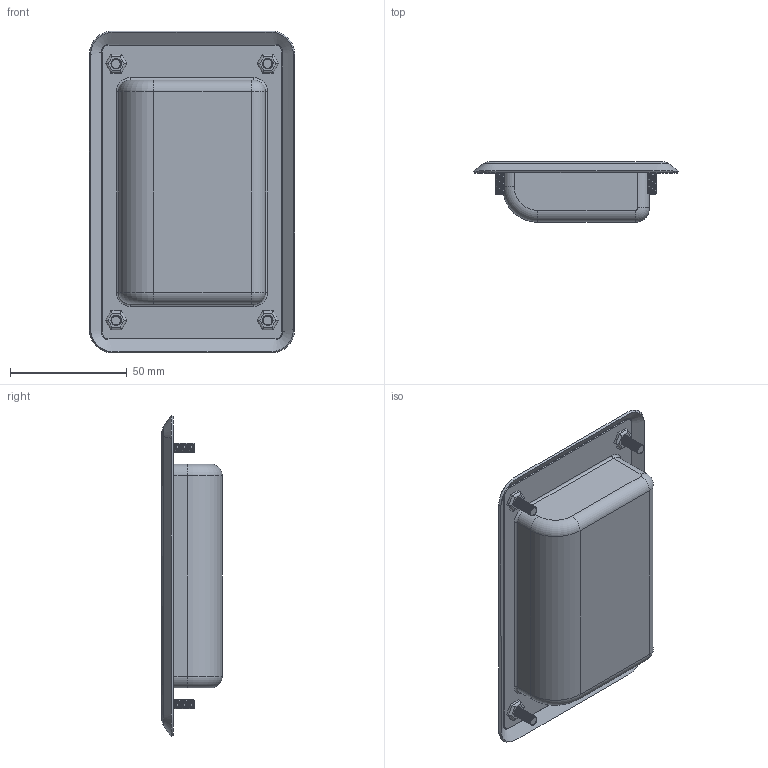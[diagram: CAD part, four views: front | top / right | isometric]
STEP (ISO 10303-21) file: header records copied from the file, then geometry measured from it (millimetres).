
FILE_DESCRIPTION (( 'STEP AP203' ), '1' );
FILE_NAME ('XG01-035-138A.STEP', '2025-07-25T07:30:25', ( '微软用户' ), ( '微软中国' ), 'SwSTEP 2.0', 'SolidWorks 2024', '' );
FILE_SCHEMA (( 'CONFIG_CONTROL_DESIGN' ));
Products named in the file (1): XG01-035-138A
Bounding box: 88 x 25.81 x 138 mm (x, y, z)
Volume: 29115 mm3; surface area: 46246.7 mm2
Topology: 1 solids, 1 shells, 300 faces, 776 edges, 496 vertices
Faces by surface type: cylinder 176, plane 93, bspline 19, torus 12
Entity records: 28668 total; most frequent: CARTESIAN_POINT 22045, ORIENTED_EDGE 1552, DIRECTION 1176, EDGE_CURVE 776, VERTEX_POINT 496, AXIS2_PLACEMENT_3D 401, VECTOR 374, LINE 374
